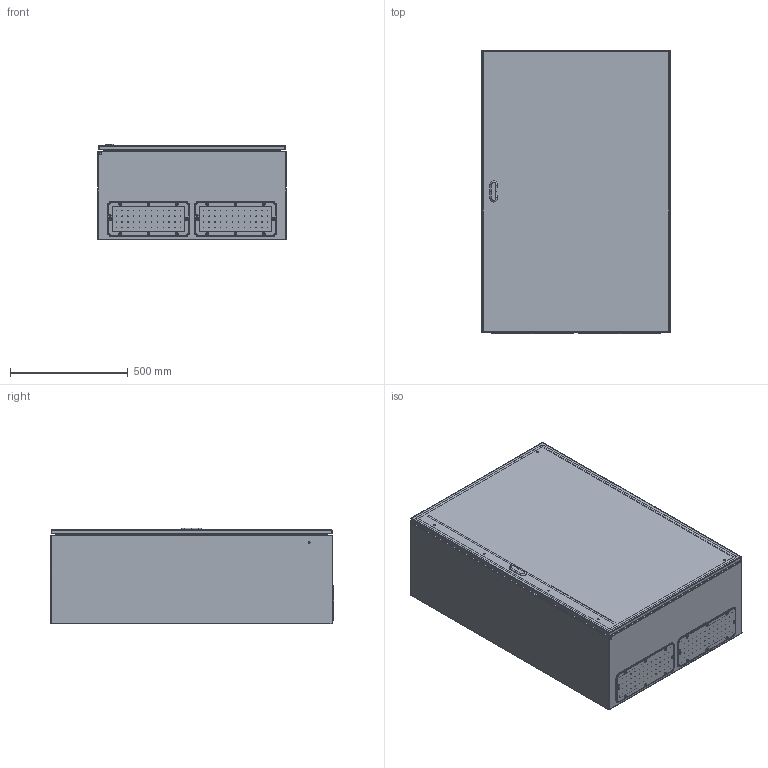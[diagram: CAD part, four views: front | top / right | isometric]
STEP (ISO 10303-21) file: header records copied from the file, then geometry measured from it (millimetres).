
FILE_DESCRIPTION (( 'STEP AP203' ), '1' );
FILE_NAME ('0800x1200x0400 dx.step', '2021-09-07T06:42:40', ( '' ), ( '' ), 'SwSTEP 2.0', 'SolidWorks 2021', '' );
FILE_SCHEMA (( 'CONFIG_CONTROL_DESIGN' ));
Length unit declared in the file: millimetre
Products named in the file (7): AR_ECOR_porta_singola_0800x1200; AR_ECOR_montaggio_porta_singola_0800x1200 dx; 0800x1200x0400 dx; AR_ECOR_involucro_0800x1200x0400; AR_ECOR_flangia IC_04; AR_ECOR_chiusura_std_cariglione_0ARSE125; AR_ECOR_Piastra_23
Assembly tree (7 placements, depth 3):
  0800x1200x0400 dx
    AR_ECOR_involucro_0800x1200x0400
    AR_ECOR_montaggio_porta_singola_0800x1200 dx
      AR_ECOR_porta_singola_0800x1200
      AR_ECOR_chiusura_std_cariglione_0ARSE125
    AR_ECOR_flangia IC_04  x2
    AR_ECOR_Piastra_23
Bounding box: 800 x 1204 x 407 mm (x, y, z)
Volume: 8280985.4 mm3; surface area: 9271731.9 mm2
Topology: 6 solids, 6 shells, 1250 faces, 3057 edges, 1936 vertices
Faces by surface type: cylinder 661, plane 331, cone 116, torus 74, bspline 52, sphere 16
Entity records: 30331 total; most frequent: CARTESIAN_POINT 6005, DIRECTION 5279, ORIENTED_EDGE 4642, EDGE_CURVE 2321, AXIS2_PLACEMENT_3D 2137, VERTEX_POINT 1480, EDGE_LOOP 1311, CIRCLE 1218
